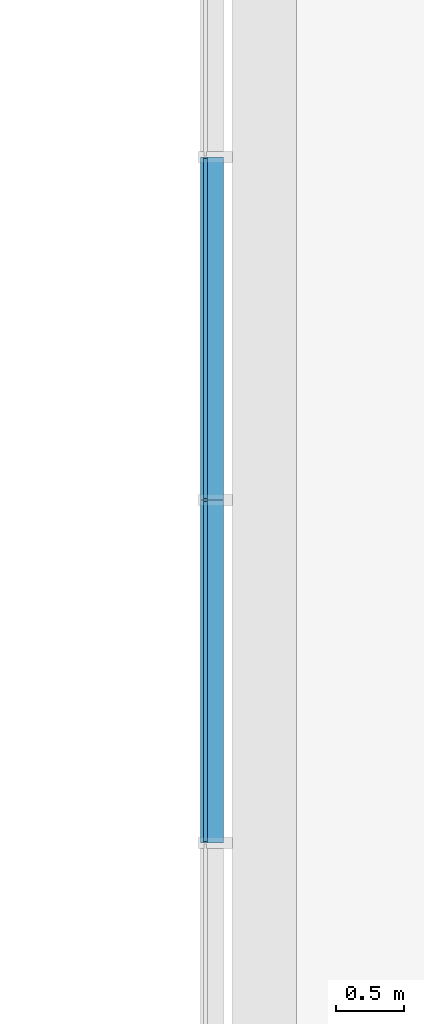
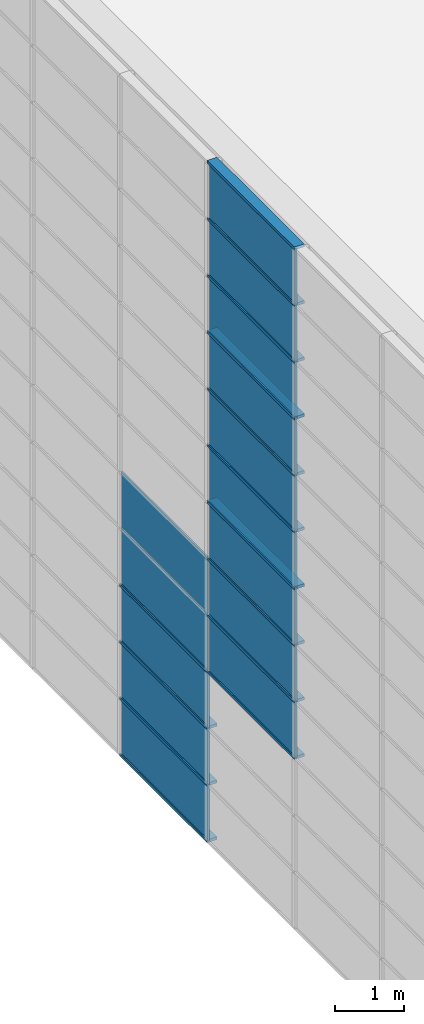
# One storey, part 12 of 105: 30 building element parts, 4 elements without a shape of their own.
"""IFC4 building model written with IfcOpenShell, lengths in millimetres."""

from ifc_helpers import new_model, entity, si_unit, converted_unit, derived_unit, direction, frame, origin_with_axes, place, context, subcontext, project, spatial, triangles, material, element, aggregate, save


model = new_model("IFC4")

# Units and contexts
model_context = context("Model", 3, precision=1e-05, world=origin_with_axes(), true_north=direction((0.0, 1.0)))
body_context = subcontext(model_context, "Body", "Model", "MODEL_VIEW")
ifc_project = project(units=[si_unit("LENGTHUNIT", "METRE", prefix="MILLI"), si_unit("AREAUNIT", "SQUARE_METRE"), si_unit("VOLUMEUNIT", "CUBIC_METRE"), converted_unit("PLANEANGLEUNIT", "DEGREE", entity("IfcLengthMeasure", 0.017453), si_unit("PLANEANGLEUNIT", "RADIAN"), dimensions=[0, 0, 0, 0, 0, 0, 0]), si_unit("SOLIDANGLEUNIT", "STERADIAN"), si_unit("MASSUNIT", "GRAM"), si_unit("TIMEUNIT", "SECOND"), si_unit("THERMODYNAMICTEMPERATUREUNIT", "DEGREE_CELSIUS"), si_unit("LUMINOUSINTENSITYUNIT", "LUMEN"), si_unit("POWERUNIT", "WATT"), derived_unit("THERMALTRANSMITTANCEUNIT", [(si_unit("POWERUNIT", "WATT"), 1), (si_unit("THERMODYNAMICTEMPERATUREUNIT", "KELVIN"), -1), (si_unit("AREAUNIT", "SQUARE_METRE"), -1)])], contexts=[model_context])

# Site, building, storey
site_placement = place(None, origin_with_axes())
site = spatial("IfcSite", under=ifc_project, at=site_placement, Name="Default Site", CompositionType="ELEMENT")
building_placement = place(site_placement, origin_with_axes())
building = spatial("IfcBuilding", under=site, at=building_placement, Name="Default Building", CompositionType="ELEMENT")
storey_placement = place(building_placement, origin_with_axes())
storey = spatial("IfcBuildingStorey", under=building, at=storey_placement, Name="OG - Story", CompositionType="ELEMENT", Elevation=0.0)

# Curtain wall, building element parts
curtain_wall_1_placement = place(storey_placement, origin_with_axes())
curtain_wall_1 = element("IfcCurtainWall", 1, at=curtain_wall_1_placement, inside=storey, Name="Fassade-003", PredefinedType="NOTDEFINED")
ifc_material_1 = material(Name="Normalglas")
building_element_part_1_placement = place(curtain_wall_1_placement, frame((31551.391327, -51326.104944, 0.0), z_axis=(0.0, 0.0, 1.0), x_axis=(1.0, 0.0, 0.0)))
building_element_part_1 = element("IfcBuildingElementPart", 2, at=building_element_part_1_placement, material=ifc_material_1, Name="Normalglas", PredefinedType="NOTDEFINED", context=body_context, shape_type="Tessellation", body=[
    triangles([(15.0, 18937.368, 995.0), (-14.999, 18937.368, 995.0), (-14.999, 16431.053, 995.0), (15.0, 16431.053, 995.0), (15.0, 18937.368, 5.0), (-14.999, 18937.368, 5.0), (-14.999, 16431.053, 5.0), (15.0, 16431.053, 5.0)], [[1, 2, 3], [1, 3, 4], [5, 6, 2], [5, 2, 1], [2, 6, 7], [2, 7, 3], [4, 3, 7], [4, 7, 8], [1, 4, 8], [1, 8, 5], [8, 7, 6], [8, 6, 5]], closed=False),
])
building_element_part_2_placement = place(curtain_wall_1_placement, frame((31551.391327, -51326.104944, 0.0), z_axis=(0.0, 0.0, 1.0), x_axis=(1.0, 0.0, 0.0)))
building_element_part_2 = element("IfcBuildingElementPart", 3, at=building_element_part_2_placement, material=ifc_material_1, Name="Normalglas", PredefinedType="NOTDEFINED", context=body_context, shape_type="Tessellation", body=[
    triangles([(15.0, 18937.368, 1995.0), (-14.999, 18937.368, 1995.0), (-14.999, 16431.053, 1995.0), (15.0, 16431.053, 1995.0), (15.0, 18937.368, 1005.0), (-14.999, 18937.368, 1005.0), (-14.999, 16431.053, 1005.0), (15.0, 16431.053, 1005.0)], [[1, 2, 3], [1, 3, 4], [5, 6, 2], [5, 2, 1], [2, 6, 7], [2, 7, 3], [4, 3, 7], [4, 7, 8], [1, 4, 8], [1, 8, 5], [8, 7, 6], [8, 6, 5]], closed=False),
])
building_element_part_3_placement = place(curtain_wall_1_placement, frame((31551.391327, -51326.104944, 0.0), z_axis=(0.0, 0.0, 1.0), x_axis=(1.0, 0.0, 0.0)))
building_element_part_3 = element("IfcBuildingElementPart", 4, at=building_element_part_3_placement, material=ifc_material_1, Name="Normalglas", PredefinedType="NOTDEFINED", context=body_context, shape_type="Tessellation", body=[
    triangles([(15.0, 18937.368, 2995.0), (-14.999, 18937.368, 2995.0), (-14.999, 16431.053, 2995.0), (15.0, 16431.053, 2995.0), (15.0, 18937.368, 2005.0), (-14.999, 18937.368, 2005.0), (-14.999, 16431.053, 2005.0), (15.0, 16431.053, 2005.0)], [[1, 2, 3], [1, 3, 4], [5, 6, 2], [5, 2, 1], [2, 6, 7], [2, 7, 3], [4, 3, 7], [4, 7, 8], [1, 4, 8], [1, 8, 5], [8, 7, 6], [8, 6, 5]], closed=False),
])
ifc_material_2 = material(Name="Blech")
building_element_part_4_placement = place(curtain_wall_1_placement, frame((31551.391327, -51326.104944, 0.0), z_axis=(0.0, 0.0, 1.0), x_axis=(1.0, 0.0, 0.0)))
building_element_part_4 = element("IfcBuildingElementPart", 5, at=building_element_part_4_placement, material=ifc_material_2, Name="Blech", PredefinedType="NOTDEFINED", context=body_context, shape_type="Tessellation", body=[
    triangles([(15.0, 18947.368, 25.0), (133.0, 18947.368, 25.0), (15.0, 18947.368, 5.0), (133.0, 18947.368, -24.999), (-14.999, 18947.368, 5.0), (-34.999, 18947.368, -24.999), (-34.999, 18947.368, 25.0), (-14.999, 18947.368, 25.0), (15.0, 16421.053, 5.0), (15.0, 16421.053, 25.0), (133.0, 16421.053, 25.0), (133.0, 16421.053, -24.999), (-34.999, 16421.053, -24.999), (-34.999, 16421.053, 25.0), (-14.999, 16421.053, 25.0), (-14.999, 16421.053, 5.0)], [[1, 2, 3], [3, 2, 4], [3, 4, 5], [5, 4, 6], [5, 6, 7], [5, 7, 8], [3, 9, 10], [3, 10, 1], [10, 11, 2], [10, 2, 1], [11, 12, 4], [11, 4, 2], [12, 13, 6], [12, 6, 4], [13, 14, 7], [13, 7, 6], [8, 7, 14], [8, 14, 15], [15, 16, 5], [15, 5, 8], [5, 16, 9], [5, 9, 3], [16, 9, 12], [16, 12, 13], [16, 13, 14], [16, 14, 15], [11, 12, 9], [11, 9, 10]], closed=False),
])
building_element_part_5_placement = place(curtain_wall_1_placement, frame((31551.391327, -51326.104944, 0.0), z_axis=(0.0, 0.0, 1.0), x_axis=(1.0, 0.0, 0.0)))
building_element_part_5 = element("IfcBuildingElementPart", 6, at=building_element_part_5_placement, material=ifc_material_2, Name="Blech", PredefinedType="NOTDEFINED", context=body_context, shape_type="Tessellation", body=[
    triangles([(-14.999, 18947.368, 1025.0), (-34.999, 18947.368, 1025.0), (-14.999, 18947.368, 1005.0), (-14.999, 18947.368, 995.0), (15.0, 18947.368, 1005.0), (133.0, 18947.368, 1025.0), (15.0, 18947.368, 1025.0), (-34.999, 18947.368, 975.0), (-14.999, 18947.368, 975.0), (15.0, 18947.368, 995.0), (15.0, 18947.368, 975.0), (133.0, 18947.368, 975.0), (15.0, 16421.053, 995.0), (-14.999, 16421.053, 995.0), (-14.999, 16421.053, 975.0), (-34.999, 16421.053, 975.0), (-34.999, 16421.053, 1025.0), (-14.999, 16421.053, 1025.0), (-14.999, 16421.053, 1005.0), (15.0, 16421.053, 1005.0), (15.0, 16421.053, 1025.0), (133.0, 16421.053, 1025.0), (133.0, 16421.053, 975.0), (15.0, 16421.053, 975.0)], [[1, 2, 3], [3, 2, 4], [3, 4, 5], [5, 4, 6], [5, 6, 7], [8, 9, 4], [8, 4, 2], [6, 4, 10], [6, 10, 11], [6, 11, 12], [10, 13, 14], [10, 14, 4], [4, 14, 15], [4, 15, 9], [15, 16, 8], [15, 8, 9], [8, 16, 17], [8, 17, 2], [18, 1, 2], [18, 2, 17], [1, 18, 19], [1, 19, 3], [5, 3, 19], [5, 19, 20], [7, 5, 20], [7, 20, 21], [7, 21, 22], [7, 22, 6], [6, 22, 23], [6, 23, 12], [11, 12, 23], [11, 23, 24], [11, 24, 13], [11, 13, 10], [21, 22, 20], [20, 22, 13], [20, 13, 19], [19, 13, 14], [19, 14, 17], [17, 14, 15], [17, 15, 16], [23, 24, 13], [23, 13, 22], [19, 17, 18]], closed=False),
])
building_element_part_6_placement = place(curtain_wall_1_placement, frame((31551.391327, -51326.104944, 0.0), z_axis=(0.0, 0.0, 1.0), x_axis=(1.0, 0.0, 0.0)))
building_element_part_6 = element("IfcBuildingElementPart", 7, at=building_element_part_6_placement, material=ifc_material_2, Name="Blech", PredefinedType="NOTDEFINED", context=body_context, shape_type="Tessellation", body=[
    triangles([(-14.999, 18947.368, 2025.0), (-34.999, 18947.368, 2025.0), (-14.999, 18947.368, 2005.0), (-14.999, 18947.368, 1995.0), (15.0, 18947.368, 2005.0), (133.0, 18947.368, 2025.0), (15.0, 18947.368, 2025.0), (-34.999, 18947.368, 1975.0), (-14.999, 18947.368, 1975.0), (15.0, 18947.368, 1995.0), (15.0, 18947.368, 1975.0), (133.0, 18947.368, 1975.0), (15.0, 16421.053, 1995.0), (-14.999, 16421.053, 1995.0), (-14.999, 16421.053, 1975.0), (-34.999, 16421.053, 1975.0), (-34.999, 16421.053, 2025.0), (-14.999, 16421.053, 2025.0), (-14.999, 16421.053, 2005.0), (15.0, 16421.053, 2005.0), (15.0, 16421.053, 2025.0), (133.0, 16421.053, 2025.0), (133.0, 16421.053, 1975.0), (15.0, 16421.053, 1975.0)], [[1, 2, 3], [3, 2, 4], [3, 4, 5], [5, 4, 6], [5, 6, 7], [8, 9, 4], [8, 4, 2], [6, 4, 10], [6, 10, 11], [6, 11, 12], [10, 13, 14], [10, 14, 4], [4, 14, 15], [4, 15, 9], [15, 16, 8], [15, 8, 9], [8, 16, 17], [8, 17, 2], [18, 1, 2], [18, 2, 17], [1, 18, 19], [1, 19, 3], [5, 3, 19], [5, 19, 20], [7, 5, 20], [7, 20, 21], [7, 21, 22], [7, 22, 6], [6, 22, 23], [6, 23, 12], [11, 12, 23], [11, 23, 24], [11, 24, 13], [11, 13, 10], [21, 22, 20], [20, 22, 13], [20, 13, 19], [19, 13, 14], [19, 14, 17], [17, 14, 15], [17, 15, 16], [23, 24, 13], [23, 13, 22], [19, 17, 18]], closed=False),
])
building_element_part_7_placement = place(curtain_wall_1_placement, frame((31551.391327, -51326.104944, 0.0), z_axis=(0.0, 0.0, 1.0), x_axis=(1.0, 0.0, 0.0)))
building_element_part_7 = element("IfcBuildingElementPart", 8, at=building_element_part_7_placement, material=ifc_material_2, Name="Blech", PredefinedType="NOTDEFINED", context=body_context, shape_type="Tessellation", body=[
    triangles([(-14.999, 18947.368, 2995.0), (15.0, 18947.368, 2995.0), (133.0, 18947.368, 3025.0), (-34.999, 18947.368, 3025.0), (-34.999, 18947.368, 2975.0), (-14.999, 18947.368, 2975.0), (15.0, 18947.368, 2975.0), (133.0, 18947.368, 2975.0), (15.0, 16421.053, 2995.0), (-14.999, 16421.053, 2995.0), (-14.999, 16421.053, 2975.0), (-34.999, 16421.053, 2975.0), (-34.999, 16421.053, 3025.0), (133.0, 16421.053, 3025.0), (133.0, 16421.053, 2975.0), (15.0, 16421.053, 2975.0)], [[1, 2, 3], [1, 3, 4], [1, 4, 5], [1, 5, 6], [7, 8, 3], [7, 3, 2], [1, 2, 9], [1, 9, 10], [11, 6, 1], [11, 1, 10], [6, 11, 12], [6, 12, 5], [13, 4, 5], [13, 5, 12], [14, 3, 4], [14, 4, 13], [15, 8, 3], [15, 3, 14], [16, 7, 8], [16, 8, 15], [2, 7, 16], [2, 16, 9], [10, 9, 14], [10, 14, 13], [10, 13, 12], [10, 12, 11], [16, 15, 14], [16, 14, 9]], closed=False),
])
aggregate(curtain_wall_1, [building_element_part_1, building_element_part_2, building_element_part_3, building_element_part_4, building_element_part_5, building_element_part_6, building_element_part_7])

curtain_wall_2_placement = place(storey_placement, origin_with_axes())
curtain_wall_2 = element("IfcCurtainWall", 9, at=curtain_wall_2_placement, inside=storey, Name="Fassade-003", PredefinedType="NOTDEFINED")
building_element_part_8_placement = place(curtain_wall_2_placement, frame((31551.391327, -51326.104944, 3000.0), z_axis=(0.0, 0.0, 1.0), x_axis=(1.0, 0.0, 0.0)))
building_element_part_8 = element("IfcBuildingElementPart", 10, at=building_element_part_8_placement, material=ifc_material_1, Name="Normalglas", PredefinedType="NOTDEFINED", context=body_context, shape_type="Tessellation", body=[
    triangles([(15.0, 16411.053, 995.0), (-14.999, 16411.053, 995.0), (-14.999, 13904.737, 995.0), (15.0, 13904.737, 995.0), (15.0, 16411.053, 5.0), (-14.999, 16411.053, 5.0), (-14.999, 13904.737, 5.0), (15.0, 13904.737, 5.0)], [[1, 2, 3], [1, 3, 4], [5, 6, 2], [5, 2, 1], [2, 6, 7], [2, 7, 3], [4, 3, 7], [4, 7, 8], [1, 4, 8], [1, 8, 5], [8, 7, 6], [8, 6, 5]], closed=False),
])
building_element_part_9_placement = place(curtain_wall_2_placement, frame((31551.391327, -51326.104944, 3000.0), z_axis=(0.0, 0.0, 1.0), x_axis=(1.0, 0.0, 0.0)))
building_element_part_9 = element("IfcBuildingElementPart", 11, at=building_element_part_9_placement, material=ifc_material_1, Name="Normalglas", PredefinedType="NOTDEFINED", context=body_context, shape_type="Tessellation", body=[
    triangles([(15.0, 18937.368, 995.0), (-14.999, 18937.368, 995.0), (-14.999, 16431.053, 995.0), (15.0, 16431.053, 995.0), (15.0, 18937.368, 5.0), (-14.999, 18937.368, 5.0), (-14.999, 16431.053, 5.0), (15.0, 16431.053, 5.0)], [[1, 2, 3], [1, 3, 4], [5, 6, 2], [5, 2, 1], [2, 6, 7], [2, 7, 3], [4, 3, 7], [4, 7, 8], [1, 4, 8], [1, 8, 5], [8, 7, 6], [8, 6, 5]], closed=False),
])
building_element_part_10_placement = place(curtain_wall_2_placement, frame((31551.391327, -51326.104944, 3000.0), z_axis=(0.0, 0.0, 1.0), x_axis=(1.0, 0.0, 0.0)))
building_element_part_10 = element("IfcBuildingElementPart", 12, at=building_element_part_10_placement, material=ifc_material_1, Name="Normalglas", PredefinedType="NOTDEFINED", context=body_context, shape_type="Tessellation", body=[
    triangles([(15.0, 16411.053, 1995.0), (-14.999, 16411.053, 1995.0), (-14.999, 13904.737, 1995.0), (15.0, 13904.737, 1995.0), (15.0, 16411.053, 1005.0), (-14.999, 16411.053, 1005.0), (-14.999, 13904.737, 1005.0), (15.0, 13904.737, 1005.0)], [[1, 2, 3], [1, 3, 4], [5, 6, 2], [5, 2, 1], [2, 6, 7], [2, 7, 3], [4, 3, 7], [4, 7, 8], [1, 4, 8], [1, 8, 5], [8, 7, 6], [8, 6, 5]], closed=False),
])
building_element_part_11_placement = place(curtain_wall_2_placement, frame((31551.391327, -51326.104944, 3000.0), z_axis=(0.0, 0.0, 1.0), x_axis=(1.0, 0.0, 0.0)))
building_element_part_11 = element("IfcBuildingElementPart", 13, at=building_element_part_11_placement, material=ifc_material_1, Name="Normalglas", PredefinedType="NOTDEFINED", context=body_context, shape_type="Tessellation", body=[
    triangles([(15.0, 18937.368, 1995.0), (-14.999, 18937.368, 1995.0), (-14.999, 16431.053, 1995.0), (15.0, 16431.053, 1995.0), (15.0, 18937.368, 1005.0), (-14.999, 18937.368, 1005.0), (-14.999, 16431.053, 1005.0), (15.0, 16431.053, 1005.0)], [[1, 2, 3], [1, 3, 4], [5, 6, 2], [5, 2, 1], [2, 6, 7], [2, 7, 3], [4, 3, 7], [4, 7, 8], [1, 4, 8], [1, 8, 5], [8, 7, 6], [8, 6, 5]], closed=False),
])
building_element_part_12_placement = place(curtain_wall_2_placement, frame((31551.391327, -51326.104944, 3000.0), z_axis=(0.0, 0.0, 1.0), x_axis=(1.0, 0.0, 0.0)))
building_element_part_12 = element("IfcBuildingElementPart", 14, at=building_element_part_12_placement, material=ifc_material_1, Name="Normalglas", PredefinedType="NOTDEFINED", context=body_context, shape_type="Tessellation", body=[
    triangles([(15.0, 16411.053, 2995.0), (-14.999, 16411.053, 2995.0), (-14.999, 13904.737, 2995.0), (15.0, 13904.737, 2995.0), (15.0, 16411.053, 2005.0), (-14.999, 16411.053, 2005.0), (-14.999, 13904.737, 2005.0), (15.0, 13904.737, 2005.0)], [[1, 2, 3], [1, 3, 4], [5, 6, 2], [5, 2, 1], [2, 6, 7], [2, 7, 3], [4, 3, 7], [4, 7, 8], [1, 4, 8], [1, 8, 5], [8, 7, 6], [8, 6, 5]], closed=False),
])
building_element_part_13_placement = place(curtain_wall_2_placement, frame((31551.391327, -51326.104944, 3000.0), z_axis=(0.0, 0.0, 1.0), x_axis=(1.0, 0.0, 0.0)))
building_element_part_13 = element("IfcBuildingElementPart", 15, at=building_element_part_13_placement, material=ifc_material_2, Name="Blech", PredefinedType="NOTDEFINED", context=body_context, shape_type="Tessellation", body=[
    triangles([(15.0, 16421.053, 25.0), (133.0, 16421.053, 25.0), (15.0, 16421.053, 5.0), (133.0, 16421.053, -24.999), (-14.999, 16421.053, 5.0), (-34.999, 16421.053, -24.999), (-34.999, 16421.053, 25.0), (-14.999, 16421.053, 25.0), (15.0, 13894.737, 5.0), (15.0, 13894.737, 25.0), (133.0, 13894.737, 25.0), (133.0, 13894.737, -24.999), (-34.999, 13894.737, -24.999), (-34.999, 13894.737, 25.0), (-14.999, 13894.737, 25.0), (-14.999, 13894.737, 5.0)], [[1, 2, 3], [3, 2, 4], [3, 4, 5], [5, 4, 6], [5, 6, 7], [5, 7, 8], [3, 9, 10], [3, 10, 1], [10, 11, 2], [10, 2, 1], [11, 12, 4], [11, 4, 2], [12, 13, 6], [12, 6, 4], [13, 14, 7], [13, 7, 6], [8, 7, 14], [8, 14, 15], [15, 16, 5], [15, 5, 8], [5, 16, 9], [5, 9, 3], [16, 9, 12], [16, 12, 13], [16, 13, 14], [16, 14, 15], [11, 12, 9], [11, 9, 10]], closed=False),
])
building_element_part_14_placement = place(curtain_wall_2_placement, frame((31551.391327, -51326.104944, 3000.0), z_axis=(0.0, 0.0, 1.0), x_axis=(1.0, 0.0, 0.0)))
building_element_part_14 = element("IfcBuildingElementPart", 16, at=building_element_part_14_placement, material=ifc_material_2, Name="Blech", PredefinedType="NOTDEFINED", context=body_context, shape_type="Tessellation", body=[
    triangles([(-14.999, 16421.053, 1025.0), (-34.999, 16421.053, 1025.0), (-14.999, 16421.053, 1005.0), (-14.999, 16421.053, 995.0), (15.0, 16421.053, 1005.0), (133.0, 16421.053, 1025.0), (15.0, 16421.053, 1025.0), (-34.999, 16421.053, 975.0), (-14.999, 16421.053, 975.0), (15.0, 16421.053, 995.0), (15.0, 16421.053, 975.0), (133.0, 16421.053, 975.0), (15.0, 13894.737, 995.0), (-14.999, 13894.737, 995.0), (-14.999, 13894.737, 975.0), (-34.999, 13894.737, 975.0), (-34.999, 13894.737, 1025.0), (-14.999, 13894.737, 1025.0), (-14.999, 13894.737, 1005.0), (15.0, 13894.737, 1005.0), (15.0, 13894.737, 1025.0), (133.0, 13894.737, 1025.0), (133.0, 13894.737, 975.0), (15.0, 13894.737, 975.0)], [[1, 2, 3], [3, 2, 4], [3, 4, 5], [5, 4, 6], [5, 6, 7], [8, 9, 4], [8, 4, 2], [6, 4, 10], [6, 10, 11], [6, 11, 12], [10, 13, 14], [10, 14, 4], [4, 14, 15], [4, 15, 9], [15, 16, 8], [15, 8, 9], [8, 16, 17], [8, 17, 2], [18, 1, 2], [18, 2, 17], [1, 18, 19], [1, 19, 3], [5, 3, 19], [5, 19, 20], [7, 5, 20], [7, 20, 21], [7, 21, 22], [7, 22, 6], [6, 22, 23], [6, 23, 12], [11, 12, 23], [11, 23, 24], [11, 24, 13], [11, 13, 10], [21, 22, 20], [20, 22, 13], [20, 13, 19], [19, 13, 14], [19, 14, 17], [17, 14, 15], [17, 15, 16], [23, 24, 13], [23, 13, 22], [19, 17, 18]], closed=False),
])
building_element_part_15_placement = place(curtain_wall_2_placement, frame((31551.391327, -51326.104944, 3000.0), z_axis=(0.0, 0.0, 1.0), x_axis=(1.0, 0.0, 0.0)))
building_element_part_15 = element("IfcBuildingElementPart", 17, at=building_element_part_15_placement, material=ifc_material_2, Name="Blech", PredefinedType="NOTDEFINED", context=body_context, shape_type="Tessellation", body=[
    triangles([(-14.999, 16421.053, 2025.0), (-34.999, 16421.053, 2025.0), (-14.999, 16421.053, 2005.0), (-14.999, 16421.053, 1995.0), (15.0, 16421.053, 2005.0), (133.0, 16421.053, 2025.0), (15.0, 16421.053, 2025.0), (-34.999, 16421.053, 1975.0), (-14.999, 16421.053, 1975.0), (15.0, 16421.053, 1995.0), (15.0, 16421.053, 1975.0), (133.0, 16421.053, 1975.0), (15.0, 13894.737, 1995.0), (-14.999, 13894.737, 1995.0), (-14.999, 13894.737, 1975.0), (-34.999, 13894.737, 1975.0), (-34.999, 13894.737, 2025.0), (-14.999, 13894.737, 2025.0), (-14.999, 13894.737, 2005.0), (15.0, 13894.737, 2005.0), (15.0, 13894.737, 2025.0), (133.0, 13894.737, 2025.0), (133.0, 13894.737, 1975.0), (15.0, 13894.737, 1975.0)], [[1, 2, 3], [3, 2, 4], [3, 4, 5], [5, 4, 6], [5, 6, 7], [8, 9, 4], [8, 4, 2], [6, 4, 10], [6, 10, 11], [6, 11, 12], [10, 13, 14], [10, 14, 4], [4, 14, 15], [4, 15, 9], [15, 16, 8], [15, 8, 9], [8, 16, 17], [8, 17, 2], [18, 1, 2], [18, 2, 17], [1, 18, 19], [1, 19, 3], [5, 3, 19], [5, 19, 20], [7, 5, 20], [7, 20, 21], [7, 21, 22], [7, 22, 6], [6, 22, 23], [6, 23, 12], [11, 12, 23], [11, 23, 24], [11, 24, 13], [11, 13, 10], [21, 22, 20], [20, 22, 13], [20, 13, 19], [19, 13, 14], [19, 14, 17], [17, 14, 15], [17, 15, 16], [23, 24, 13], [23, 13, 22], [19, 17, 18]], closed=False),
])
building_element_part_16_placement = place(curtain_wall_2_placement, frame((31551.391327, -51326.104944, 3000.0), z_axis=(0.0, 0.0, 1.0), x_axis=(1.0, 0.0, 0.0)))
building_element_part_16 = element("IfcBuildingElementPart", 18, at=building_element_part_16_placement, material=ifc_material_2, Name="Blech", PredefinedType="NOTDEFINED", context=body_context, shape_type="Tessellation", body=[
    triangles([(-14.999, 16421.053, 2995.0), (15.0, 16421.053, 2995.0), (133.0, 16421.053, 3025.0), (-34.999, 16421.053, 3025.0), (-34.999, 16421.053, 2975.0), (-14.999, 16421.053, 2975.0), (15.0, 16421.053, 2975.0), (133.0, 16421.053, 2975.0), (15.0, 13894.737, 2995.0), (-14.999, 13894.737, 2995.0), (-14.999, 13894.737, 2975.0), (-34.999, 13894.737, 2975.0), (-34.999, 13894.737, 3025.0), (133.0, 13894.737, 3025.0), (133.0, 13894.737, 2975.0), (15.0, 13894.737, 2975.0)], [[1, 2, 3], [1, 3, 4], [1, 4, 5], [1, 5, 6], [7, 8, 3], [7, 3, 2], [1, 2, 9], [1, 9, 10], [11, 6, 1], [11, 1, 10], [6, 11, 12], [6, 12, 5], [13, 4, 5], [13, 5, 12], [14, 3, 4], [14, 4, 13], [15, 8, 3], [15, 3, 14], [16, 7, 8], [16, 8, 15], [2, 7, 16], [2, 16, 9], [10, 9, 14], [10, 14, 13], [10, 13, 12], [10, 12, 11], [16, 15, 14], [16, 14, 9]], closed=False),
])
aggregate(curtain_wall_2, [building_element_part_8, building_element_part_9, building_element_part_10, building_element_part_11, building_element_part_12, building_element_part_13, building_element_part_14, building_element_part_15, building_element_part_16])

curtain_wall_3_placement = place(storey_placement, origin_with_axes())
curtain_wall_3 = element("IfcCurtainWall", 19, at=curtain_wall_3_placement, inside=storey, Name="Fassade-003", PredefinedType="NOTDEFINED")
building_element_part_17_placement = place(curtain_wall_3_placement, frame((31551.391327, -51326.104944, 6000.0), z_axis=(0.0, 0.0, 1.0), x_axis=(1.0, 0.0, 0.0)))
building_element_part_17 = element("IfcBuildingElementPart", 20, at=building_element_part_17_placement, material=ifc_material_1, Name="Normalglas", PredefinedType="NOTDEFINED", context=body_context, shape_type="Tessellation", body=[
    triangles([(15.0, 16411.053, 995.0), (-14.999, 16411.053, 995.0), (-14.999, 13904.737, 995.0), (15.0, 13904.737, 995.0), (15.0, 16411.053, 5.0), (-14.999, 16411.053, 5.0), (-14.999, 13904.737, 5.0), (15.0, 13904.737, 5.0)], [[1, 2, 3], [1, 3, 4], [5, 6, 2], [5, 2, 1], [2, 6, 7], [2, 7, 3], [4, 3, 7], [4, 7, 8], [1, 4, 8], [1, 8, 5], [8, 7, 6], [8, 6, 5]], closed=False),
])
building_element_part_18_placement = place(curtain_wall_3_placement, frame((31551.391327, -51326.104944, 6000.0), z_axis=(0.0, 0.0, 1.0), x_axis=(1.0, 0.0, 0.0)))
building_element_part_18 = element("IfcBuildingElementPart", 21, at=building_element_part_18_placement, material=ifc_material_1, Name="Normalglas", PredefinedType="NOTDEFINED", context=body_context, shape_type="Tessellation", body=[
    triangles([(15.0, 16411.053, 1995.0), (-14.999, 16411.053, 1995.0), (-14.999, 13904.737, 1995.0), (15.0, 13904.737, 1995.0), (15.0, 16411.053, 1005.0), (-14.999, 16411.053, 1005.0), (-14.999, 13904.737, 1005.0), (15.0, 13904.737, 1005.0)], [[1, 2, 3], [1, 3, 4], [5, 6, 2], [5, 2, 1], [2, 6, 7], [2, 7, 3], [4, 3, 7], [4, 7, 8], [1, 4, 8], [1, 8, 5], [8, 7, 6], [8, 6, 5]], closed=False),
])
building_element_part_19_placement = place(curtain_wall_3_placement, frame((31551.391327, -51326.104944, 6000.0), z_axis=(0.0, 0.0, 1.0), x_axis=(1.0, 0.0, 0.0)))
building_element_part_19 = element("IfcBuildingElementPart", 22, at=building_element_part_19_placement, material=ifc_material_1, Name="Normalglas", PredefinedType="NOTDEFINED", context=body_context, shape_type="Tessellation", body=[
    triangles([(15.0, 16411.053, 2995.0), (-14.999, 16411.053, 2995.0), (-14.999, 13904.737, 2995.0), (15.0, 13904.737, 2995.0), (15.0, 16411.053, 2005.0), (-14.999, 16411.053, 2005.0), (-14.999, 13904.737, 2005.0), (15.0, 13904.737, 2005.0)], [[1, 2, 3], [1, 3, 4], [5, 6, 2], [5, 2, 1], [2, 6, 7], [2, 7, 3], [4, 3, 7], [4, 7, 8], [1, 4, 8], [1, 8, 5], [8, 7, 6], [8, 6, 5]], closed=False),
])
building_element_part_20_placement = place(curtain_wall_3_placement, frame((31551.391327, -51326.104944, 6000.0), z_axis=(0.0, 0.0, 1.0), x_axis=(1.0, 0.0, 0.0)))
building_element_part_20 = element("IfcBuildingElementPart", 23, at=building_element_part_20_placement, material=ifc_material_2, Name="Blech", PredefinedType="NOTDEFINED", context=body_context, shape_type="Tessellation", body=[
    triangles([(15.0, 16421.053, 25.0), (133.0, 16421.053, 25.0), (15.0, 16421.053, 5.0), (133.0, 16421.053, -24.999), (-14.999, 16421.053, 5.0), (-34.999, 16421.053, -24.999), (-34.999, 16421.053, 25.0), (-14.999, 16421.053, 25.0), (15.0, 13894.737, 5.0), (15.0, 13894.737, 25.0), (133.0, 13894.737, 25.0), (133.0, 13894.737, -24.999), (-34.999, 13894.737, -24.999), (-34.999, 13894.737, 25.0), (-14.999, 13894.737, 25.0), (-14.999, 13894.737, 5.0)], [[1, 2, 3], [3, 2, 4], [3, 4, 5], [5, 4, 6], [5, 6, 7], [5, 7, 8], [3, 9, 10], [3, 10, 1], [10, 11, 2], [10, 2, 1], [11, 12, 4], [11, 4, 2], [12, 13, 6], [12, 6, 4], [13, 14, 7], [13, 7, 6], [8, 7, 14], [8, 14, 15], [15, 16, 5], [15, 5, 8], [5, 16, 9], [5, 9, 3], [16, 9, 12], [16, 12, 13], [16, 13, 14], [16, 14, 15], [11, 12, 9], [11, 9, 10]], closed=False),
])
building_element_part_21_placement = place(curtain_wall_3_placement, frame((31551.391327, -51326.104944, 6000.0), z_axis=(0.0, 0.0, 1.0), x_axis=(1.0, 0.0, 0.0)))
building_element_part_21 = element("IfcBuildingElementPart", 24, at=building_element_part_21_placement, material=ifc_material_2, Name="Blech", PredefinedType="NOTDEFINED", context=body_context, shape_type="Tessellation", body=[
    triangles([(-14.999, 16421.053, 1025.0), (-34.999, 16421.053, 1025.0), (-14.999, 16421.053, 1005.0), (-14.999, 16421.053, 995.0), (15.0, 16421.053, 1005.0), (133.0, 16421.053, 1025.0), (15.0, 16421.053, 1025.0), (-34.999, 16421.053, 975.0), (-14.999, 16421.053, 975.0), (15.0, 16421.053, 995.0), (15.0, 16421.053, 975.0), (133.0, 16421.053, 975.0), (15.0, 13894.737, 995.0), (-14.999, 13894.737, 995.0), (-14.999, 13894.737, 975.0), (-34.999, 13894.737, 975.0), (-34.999, 13894.737, 1025.0), (-14.999, 13894.737, 1025.0), (-14.999, 13894.737, 1005.0), (15.0, 13894.737, 1005.0), (15.0, 13894.737, 1025.0), (133.0, 13894.737, 1025.0), (133.0, 13894.737, 975.0), (15.0, 13894.737, 975.0)], [[1, 2, 3], [3, 2, 4], [3, 4, 5], [5, 4, 6], [5, 6, 7], [8, 9, 4], [8, 4, 2], [6, 4, 10], [6, 10, 11], [6, 11, 12], [10, 13, 14], [10, 14, 4], [4, 14, 15], [4, 15, 9], [15, 16, 8], [15, 8, 9], [8, 16, 17], [8, 17, 2], [18, 1, 2], [18, 2, 17], [1, 18, 19], [1, 19, 3], [5, 3, 19], [5, 19, 20], [7, 5, 20], [7, 20, 21], [7, 21, 22], [7, 22, 6], [6, 22, 23], [6, 23, 12], [11, 12, 23], [11, 23, 24], [11, 24, 13], [11, 13, 10], [21, 22, 20], [20, 22, 13], [20, 13, 19], [19, 13, 14], [19, 14, 17], [17, 14, 15], [17, 15, 16], [23, 24, 13], [23, 13, 22], [19, 17, 18]], closed=False),
])
building_element_part_22_placement = place(curtain_wall_3_placement, frame((31551.391327, -51326.104944, 6000.0), z_axis=(0.0, 0.0, 1.0), x_axis=(1.0, 0.0, 0.0)))
building_element_part_22 = element("IfcBuildingElementPart", 25, at=building_element_part_22_placement, material=ifc_material_2, Name="Blech", PredefinedType="NOTDEFINED", context=body_context, shape_type="Tessellation", body=[
    triangles([(-14.999, 16421.053, 2025.0), (-34.999, 16421.053, 2025.0), (-14.999, 16421.053, 2005.0), (-14.999, 16421.053, 1995.0), (15.0, 16421.053, 2005.0), (133.0, 16421.053, 2025.0), (15.0, 16421.053, 2025.0), (-34.999, 16421.053, 1975.0), (-14.999, 16421.053, 1975.0), (15.0, 16421.053, 1995.0), (15.0, 16421.053, 1975.0), (133.0, 16421.053, 1975.0), (15.0, 13894.737, 1995.0), (-14.999, 13894.737, 1995.0), (-14.999, 13894.737, 1975.0), (-34.999, 13894.737, 1975.0), (-34.999, 13894.737, 2025.0), (-14.999, 13894.737, 2025.0), (-14.999, 13894.737, 2005.0), (15.0, 13894.737, 2005.0), (15.0, 13894.737, 2025.0), (133.0, 13894.737, 2025.0), (133.0, 13894.737, 1975.0), (15.0, 13894.737, 1975.0)], [[1, 2, 3], [3, 2, 4], [3, 4, 5], [5, 4, 6], [5, 6, 7], [8, 9, 4], [8, 4, 2], [6, 4, 10], [6, 10, 11], [6, 11, 12], [10, 13, 14], [10, 14, 4], [4, 14, 15], [4, 15, 9], [15, 16, 8], [15, 8, 9], [8, 16, 17], [8, 17, 2], [18, 1, 2], [18, 2, 17], [1, 18, 19], [1, 19, 3], [5, 3, 19], [5, 19, 20], [7, 5, 20], [7, 20, 21], [7, 21, 22], [7, 22, 6], [6, 22, 23], [6, 23, 12], [11, 12, 23], [11, 23, 24], [11, 24, 13], [11, 13, 10], [21, 22, 20], [20, 22, 13], [20, 13, 19], [19, 13, 14], [19, 14, 17], [17, 14, 15], [17, 15, 16], [23, 24, 13], [23, 13, 22], [19, 17, 18]], closed=False),
])
building_element_part_23_placement = place(curtain_wall_3_placement, frame((31551.391327, -51326.104944, 6000.0), z_axis=(0.0, 0.0, 1.0), x_axis=(1.0, 0.0, 0.0)))
building_element_part_23 = element("IfcBuildingElementPart", 26, at=building_element_part_23_placement, material=ifc_material_2, Name="Blech", PredefinedType="NOTDEFINED", context=body_context, shape_type="Tessellation", body=[
    triangles([(-14.999, 16421.053, 2995.0), (15.0, 16421.053, 2995.0), (133.0, 16421.053, 3025.0), (-34.999, 16421.053, 3025.0), (-34.999, 16421.053, 2975.0), (-14.999, 16421.053, 2975.0), (15.0, 16421.053, 2975.0), (133.0, 16421.053, 2975.0), (15.0, 13894.737, 2995.0), (-14.999, 13894.737, 2995.0), (-14.999, 13894.737, 2975.0), (-34.999, 13894.737, 2975.0), (-34.999, 13894.737, 3025.0), (133.0, 13894.737, 3025.0), (133.0, 13894.737, 2975.0), (15.0, 13894.737, 2975.0)], [[1, 2, 3], [1, 3, 4], [1, 4, 5], [1, 5, 6], [7, 8, 3], [7, 3, 2], [1, 2, 9], [1, 9, 10], [11, 6, 1], [11, 1, 10], [6, 11, 12], [6, 12, 5], [13, 4, 5], [13, 5, 12], [14, 3, 4], [14, 4, 13], [15, 8, 3], [15, 3, 14], [16, 7, 8], [16, 8, 15], [2, 7, 16], [2, 16, 9], [10, 9, 14], [10, 14, 13], [10, 13, 12], [10, 12, 11], [16, 15, 14], [16, 14, 9]], closed=False),
])
aggregate(curtain_wall_3, [building_element_part_17, building_element_part_18, building_element_part_19, building_element_part_20, building_element_part_21, building_element_part_22, building_element_part_23])

curtain_wall_4_placement = place(storey_placement, origin_with_axes())
curtain_wall_4 = element("IfcCurtainWall", 27, at=curtain_wall_4_placement, inside=storey, Name="Fassade-003", PredefinedType="NOTDEFINED")
building_element_part_24_placement = place(curtain_wall_4_placement, frame((31551.391327, -51326.104944, 9000.0), z_axis=(0.0, 0.0, 1.0), x_axis=(1.0, 0.0, 0.0)))
building_element_part_24 = element("IfcBuildingElementPart", 28, at=building_element_part_24_placement, material=ifc_material_1, Name="Normalglas", PredefinedType="NOTDEFINED", context=body_context, shape_type="Tessellation", body=[
    triangles([(15.0, 16411.053, 995.0), (-14.999, 16411.053, 995.0), (-14.999, 13904.737, 995.0), (15.0, 13904.737, 995.0), (15.0, 16411.053, 5.0), (-14.999, 16411.053, 5.0), (-14.999, 13904.737, 5.0), (15.0, 13904.737, 5.0)], [[1, 2, 3], [1, 3, 4], [5, 6, 2], [5, 2, 1], [2, 6, 7], [2, 7, 3], [4, 3, 7], [4, 7, 8], [1, 4, 8], [1, 8, 5], [8, 7, 6], [8, 6, 5]], closed=False),
])
building_element_part_25_placement = place(curtain_wall_4_placement, frame((31551.391327, -51326.104944, 9000.0), z_axis=(0.0, 0.0, 1.0), x_axis=(1.0, 0.0, 0.0)))
building_element_part_25 = element("IfcBuildingElementPart", 29, at=building_element_part_25_placement, material=ifc_material_1, Name="Normalglas", PredefinedType="NOTDEFINED", context=body_context, shape_type="Tessellation", body=[
    triangles([(15.0, 16411.053, 1995.0), (-14.999, 16411.053, 1995.0), (-14.999, 13904.737, 1995.0), (15.0, 13904.737, 1995.0), (15.0, 16411.053, 1005.0), (-14.999, 16411.053, 1005.0), (-14.999, 13904.737, 1005.0), (15.0, 13904.737, 1005.0)], [[1, 2, 3], [1, 3, 4], [5, 6, 2], [5, 2, 1], [2, 6, 7], [2, 7, 3], [4, 3, 7], [4, 7, 8], [1, 4, 8], [1, 8, 5], [8, 7, 6], [8, 6, 5]], closed=False),
])
building_element_part_26_placement = place(curtain_wall_4_placement, frame((31551.391327, -51326.104944, 9000.0), z_axis=(0.0, 0.0, 1.0), x_axis=(1.0, 0.0, 0.0)))
building_element_part_26 = element("IfcBuildingElementPart", 30, at=building_element_part_26_placement, material=ifc_material_1, Name="Normalglas", PredefinedType="NOTDEFINED", context=body_context, shape_type="Tessellation", body=[
    triangles([(15.0, 16411.053, 2995.0), (-14.999, 16411.053, 2995.0), (-14.999, 13904.737, 2995.0), (15.0, 13904.737, 2995.0), (15.0, 16411.053, 2005.0), (-14.999, 16411.053, 2005.0), (-14.999, 13904.737, 2005.0), (15.0, 13904.737, 2005.0)], [[1, 2, 3], [1, 3, 4], [5, 6, 2], [5, 2, 1], [2, 6, 7], [2, 7, 3], [4, 3, 7], [4, 7, 8], [1, 4, 8], [1, 8, 5], [8, 7, 6], [8, 6, 5]], closed=False),
])
building_element_part_27_placement = place(curtain_wall_4_placement, frame((31551.391327, -51326.104944, 9000.0), z_axis=(0.0, 0.0, 1.0), x_axis=(1.0, 0.0, 0.0)))
building_element_part_27 = element("IfcBuildingElementPart", 31, at=building_element_part_27_placement, material=ifc_material_2, Name="Blech", PredefinedType="NOTDEFINED", context=body_context, shape_type="Tessellation", body=[
    triangles([(15.0, 16421.053, 25.0), (133.0, 16421.053, 25.0), (15.0, 16421.053, 5.0), (133.0, 16421.053, -24.999), (-14.999, 16421.053, 5.0), (-34.999, 16421.053, -24.999), (-34.999, 16421.053, 25.0), (-14.999, 16421.053, 25.0), (15.0, 13894.737, 5.0), (15.0, 13894.737, 25.0), (133.0, 13894.737, 25.0), (133.0, 13894.737, -24.999), (-34.999, 13894.737, -24.999), (-34.999, 13894.737, 25.0), (-14.999, 13894.737, 25.0), (-14.999, 13894.737, 5.0)], [[1, 2, 3], [3, 2, 4], [3, 4, 5], [5, 4, 6], [5, 6, 7], [5, 7, 8], [3, 9, 10], [3, 10, 1], [10, 11, 2], [10, 2, 1], [11, 12, 4], [11, 4, 2], [12, 13, 6], [12, 6, 4], [13, 14, 7], [13, 7, 6], [8, 7, 14], [8, 14, 15], [15, 16, 5], [15, 5, 8], [5, 16, 9], [5, 9, 3], [16, 9, 12], [16, 12, 13], [16, 13, 14], [16, 14, 15], [11, 12, 9], [11, 9, 10]], closed=False),
])
building_element_part_28_placement = place(curtain_wall_4_placement, frame((31551.391327, -51326.104944, 9000.0), z_axis=(0.0, 0.0, 1.0), x_axis=(1.0, 0.0, 0.0)))
building_element_part_28 = element("IfcBuildingElementPart", 32, at=building_element_part_28_placement, material=ifc_material_2, Name="Blech", PredefinedType="NOTDEFINED", context=body_context, shape_type="Tessellation", body=[
    triangles([(-14.999, 16421.053, 1025.0), (-34.999, 16421.053, 1025.0), (-14.999, 16421.053, 1005.0), (-14.999, 16421.053, 995.0), (15.0, 16421.053, 1005.0), (133.0, 16421.053, 1025.0), (15.0, 16421.053, 1025.0), (-34.999, 16421.053, 975.0), (-14.999, 16421.053, 975.0), (15.0, 16421.053, 995.0), (15.0, 16421.053, 975.0), (133.0, 16421.053, 975.0), (15.0, 13894.737, 995.0), (-14.999, 13894.737, 995.0), (-14.999, 13894.737, 975.0), (-34.999, 13894.737, 975.0), (-34.999, 13894.737, 1025.0), (-14.999, 13894.737, 1025.0), (-14.999, 13894.737, 1005.0), (15.0, 13894.737, 1005.0), (15.0, 13894.737, 1025.0), (133.0, 13894.737, 1025.0), (133.0, 13894.737, 975.0), (15.0, 13894.737, 975.0)], [[1, 2, 3], [3, 2, 4], [3, 4, 5], [5, 4, 6], [5, 6, 7], [8, 9, 4], [8, 4, 2], [6, 4, 10], [6, 10, 11], [6, 11, 12], [10, 13, 14], [10, 14, 4], [4, 14, 15], [4, 15, 9], [15, 16, 8], [15, 8, 9], [8, 16, 17], [8, 17, 2], [18, 1, 2], [18, 2, 17], [1, 18, 19], [1, 19, 3], [5, 3, 19], [5, 19, 20], [7, 5, 20], [7, 20, 21], [7, 21, 22], [7, 22, 6], [6, 22, 23], [6, 23, 12], [11, 12, 23], [11, 23, 24], [11, 24, 13], [11, 13, 10], [21, 22, 20], [20, 22, 13], [20, 13, 19], [19, 13, 14], [19, 14, 17], [17, 14, 15], [17, 15, 16], [23, 24, 13], [23, 13, 22], [19, 17, 18]], closed=False),
])
building_element_part_29_placement = place(curtain_wall_4_placement, frame((31551.391327, -51326.104944, 9000.0), z_axis=(0.0, 0.0, 1.0), x_axis=(1.0, 0.0, 0.0)))
building_element_part_29 = element("IfcBuildingElementPart", 33, at=building_element_part_29_placement, material=ifc_material_2, Name="Blech", PredefinedType="NOTDEFINED", context=body_context, shape_type="Tessellation", body=[
    triangles([(-14.999, 16421.053, 2025.0), (-34.999, 16421.053, 2025.0), (-14.999, 16421.053, 2005.0), (-14.999, 16421.053, 1995.0), (15.0, 16421.053, 2005.0), (133.0, 16421.053, 2025.0), (15.0, 16421.053, 2025.0), (-34.999, 16421.053, 1975.0), (-14.999, 16421.053, 1975.0), (15.0, 16421.053, 1995.0), (15.0, 16421.053, 1975.0), (133.0, 16421.053, 1975.0), (15.0, 13894.737, 1995.0), (-14.999, 13894.737, 1995.0), (-14.999, 13894.737, 1975.0), (-34.999, 13894.737, 1975.0), (-34.999, 13894.737, 2025.0), (-14.999, 13894.737, 2025.0), (-14.999, 13894.737, 2005.0), (15.0, 13894.737, 2005.0), (15.0, 13894.737, 2025.0), (133.0, 13894.737, 2025.0), (133.0, 13894.737, 1975.0), (15.0, 13894.737, 1975.0)], [[1, 2, 3], [3, 2, 4], [3, 4, 5], [5, 4, 6], [5, 6, 7], [8, 9, 4], [8, 4, 2], [6, 4, 10], [6, 10, 11], [6, 11, 12], [10, 13, 14], [10, 14, 4], [4, 14, 15], [4, 15, 9], [15, 16, 8], [15, 8, 9], [8, 16, 17], [8, 17, 2], [18, 1, 2], [18, 2, 17], [1, 18, 19], [1, 19, 3], [5, 3, 19], [5, 19, 20], [7, 5, 20], [7, 20, 21], [7, 21, 22], [7, 22, 6], [6, 22, 23], [6, 23, 12], [11, 12, 23], [11, 23, 24], [11, 24, 13], [11, 13, 10], [21, 22, 20], [20, 22, 13], [20, 13, 19], [19, 13, 14], [19, 14, 17], [17, 14, 15], [17, 15, 16], [23, 24, 13], [23, 13, 22], [19, 17, 18]], closed=False),
])
building_element_part_30_placement = place(curtain_wall_4_placement, frame((31551.391327, -51326.104944, 9000.0), z_axis=(0.0, 0.0, 1.0), x_axis=(1.0, 0.0, 0.0)))
building_element_part_30 = element("IfcBuildingElementPart", 34, at=building_element_part_30_placement, material=ifc_material_2, Name="Blech", PredefinedType="NOTDEFINED", context=body_context, shape_type="Tessellation", body=[
    triangles([(-14.999, 16421.053, 2995.0), (15.0, 16421.053, 2995.0), (133.0, 16421.053, 3025.0), (-34.999, 16421.053, 3025.0), (-34.999, 16421.053, 2975.0), (-14.999, 16421.053, 2975.0), (15.0, 16421.053, 2975.0), (133.0, 16421.053, 2975.0), (15.0, 13894.737, 2995.0), (-14.999, 13894.737, 2995.0), (-14.999, 13894.737, 2975.0), (-34.999, 13894.737, 2975.0), (-34.999, 13894.737, 3025.0), (133.0, 13894.737, 3025.0), (133.0, 13894.737, 2975.0), (15.0, 13894.737, 2975.0)], [[1, 2, 3], [1, 3, 4], [1, 4, 5], [1, 5, 6], [7, 8, 3], [7, 3, 2], [1, 2, 9], [1, 9, 10], [11, 6, 1], [11, 1, 10], [6, 11, 12], [6, 12, 5], [13, 4, 5], [13, 5, 12], [14, 3, 4], [14, 4, 13], [15, 8, 3], [15, 3, 14], [16, 7, 8], [16, 8, 15], [2, 7, 16], [2, 16, 9], [10, 9, 14], [10, 14, 13], [10, 13, 12], [10, 12, 11], [16, 15, 14], [16, 14, 9]], closed=False),
])
aggregate(curtain_wall_4, [building_element_part_24, building_element_part_25, building_element_part_26, building_element_part_27, building_element_part_28, building_element_part_29, building_element_part_30])

save(model, "model.ifc")
